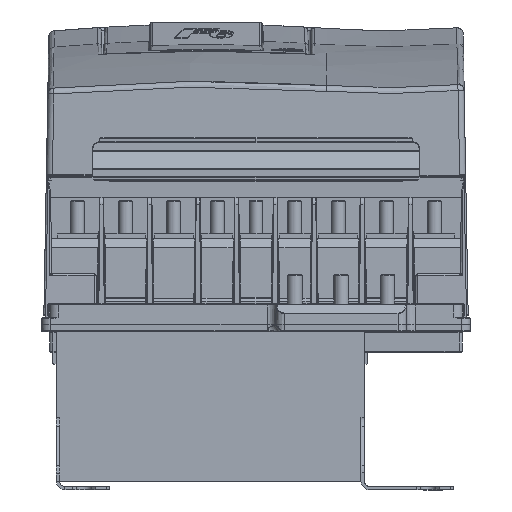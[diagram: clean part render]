
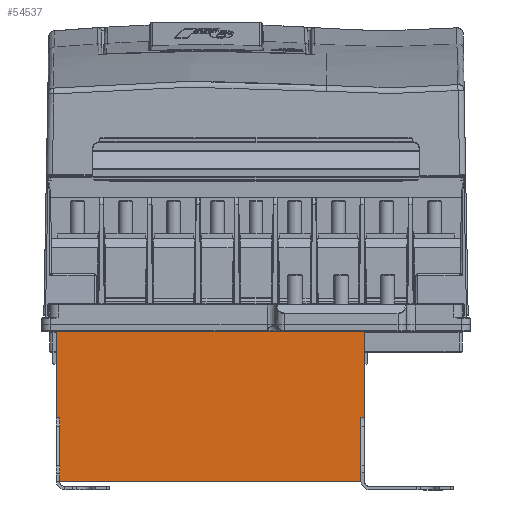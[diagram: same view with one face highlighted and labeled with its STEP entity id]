
A CAD part, front view. The second image highlights one B-rep face of the part: STEP entity #54537.
In plain terms, the highlighted planar face has unit normal (0, -1, 0).
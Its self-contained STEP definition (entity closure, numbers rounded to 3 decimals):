
#781 = CARTESIAN_POINT ( 'NONE',  ( -89.5, -63., -59. ) ) ;
#3533 = VECTOR ( 'NONE', #17405, 1000. ) ;
#7648 = EDGE_CURVE ( 'NONE', #99684, #60654, #64321, .T. ) ;
#9254 = LINE ( 'NONE', #31260, #3533 ) ;
#12946 = ORIENTED_EDGE ( 'NONE', *, *, #67321, .T. ) ;
#13111 = LINE ( 'NONE', #22317, #57198 ) ;
#13151 = CARTESIAN_POINT ( 'NONE',  ( 89.5, -63., -22. ) ) ;
#13545 = EDGE_CURVE ( 'NONE', #54027, #70020, #27477, .T. ) ;
#15111 = EDGE_LOOP ( 'NONE', ( #32792, #23341, #91481, #73072, #24395, #12946, #55637, #17736 ) ) ;
#17405 = DIRECTION ( 'NONE',  ( 0., 0., 1. ) ) ;
#17736 = ORIENTED_EDGE ( 'NONE', *, *, #93136, .T. ) ;
#18260 = VECTOR ( 'NONE', #46921, 1000. ) ;
#18732 = CARTESIAN_POINT ( 'NONE',  ( 87.5, -63., -59. ) ) ;
#19912 = DIRECTION ( 'NONE',  ( 0., 1., 0. ) ) ;
#20705 = EDGE_CURVE ( 'NONE', #79584, #50398, #31528, .T. ) ;
#22049 = LINE ( 'NONE', #35502, #81409 ) ;
#22317 = CARTESIAN_POINT ( 'NONE',  ( -87.5, -63., -36. ) ) ;
#22584 = CARTESIAN_POINT ( 'NONE',  ( 87.5, -63., -22. ) ) ;
#22721 = VECTOR ( 'NONE', #61578, 1000. ) ;
#23341 = ORIENTED_EDGE ( 'NONE', *, *, #66539, .T. ) ;
#23641 = LINE ( 'NONE', #46208, #22721 ) ;
#24395 = ORIENTED_EDGE ( 'NONE', *, *, #13545, .T. ) ;
#27477 = LINE ( 'NONE', #82286, #95902 ) ;
#30010 = VERTEX_POINT ( 'NONE', #22584 ) ;
#31260 = CARTESIAN_POINT ( 'NONE',  ( 89.5, -63., -59. ) ) ;
#31528 = LINE ( 'NONE', #781, #18260 ) ;
#32792 = ORIENTED_EDGE ( 'NONE', *, *, #20705, .T. ) ;
#35502 = CARTESIAN_POINT ( 'NONE',  ( -89.5, -63., -59. ) ) ;
#43369 = VECTOR ( 'NONE', #48951, 1000. ) ;
#43478 = CARTESIAN_POINT ( 'NONE',  ( 0., -63., 0. ) ) ;
#43951 = CARTESIAN_POINT ( 'NONE',  ( 87.5, -63., 0. ) ) ;
#44243 = VERTEX_POINT ( 'NONE', #13151 ) ;
#46208 = CARTESIAN_POINT ( 'NONE',  ( 0., -63., -22. ) ) ;
#46921 = DIRECTION ( 'NONE',  ( 1., 0., 0. ) ) ;
#48488 = CARTESIAN_POINT ( 'NONE',  ( -89.5, -63., -22. ) ) ;
#48951 = DIRECTION ( 'NONE',  ( 1., 0., 0. ) ) ;
#49910 = CARTESIAN_POINT ( 'NONE',  ( 89.5, -63., 28. ) ) ;
#50398 = VERTEX_POINT ( 'NONE', #18732 ) ;
#50781 = EDGE_CURVE ( 'NONE', #44243, #30010, #23641, .T. ) ;
#51171 = DIRECTION ( 'NONE',  ( 0., 0., 1. ) ) ;
#54027 = VERTEX_POINT ( 'NONE', #49910 ) ;
#54150 = CARTESIAN_POINT ( 'NONE',  ( -87.5, -63., -59. ) ) ;
#54537 = ADVANCED_FACE ( 'NONE', ( #67049 ), #90125, .F. ) ;
#55637 = ORIENTED_EDGE ( 'NONE', *, *, #7648, .T. ) ;
#56637 = CARTESIAN_POINT ( 'NONE',  ( -89.5, -63., -22. ) ) ;
#57198 = VECTOR ( 'NONE', #92518, 1000. ) ;
#60654 = VERTEX_POINT ( 'NONE', #70665 ) ;
#61578 = DIRECTION ( 'NONE',  ( -1., 0., 0. ) ) ;
#64321 = LINE ( 'NONE', #56637, #43369 ) ;
#66539 = EDGE_CURVE ( 'NONE', #50398, #30010, #92111, .T. ) ;
#67049 = FACE_OUTER_BOUND ( 'NONE', #15111, .T. ) ;
#67321 = EDGE_CURVE ( 'NONE', #70020, #99684, #22049, .T. ) ;
#67509 = DIRECTION ( 'NONE',  ( 0., 0., 1. ) ) ;
#67654 = AXIS2_PLACEMENT_3D ( 'NONE', #43478, #19912, #51171 ) ;
#70020 = VERTEX_POINT ( 'NONE', #90804 ) ;
#70665 = CARTESIAN_POINT ( 'NONE',  ( -87.5, -63., -22. ) ) ;
#73072 = ORIENTED_EDGE ( 'NONE', *, *, #84555, .T. ) ;
#79584 = VERTEX_POINT ( 'NONE', #54150 ) ;
#81409 = VECTOR ( 'NONE', #82153, 1000. ) ;
#82153 = DIRECTION ( 'NONE',  ( 0., 0., -1. ) ) ;
#82286 = CARTESIAN_POINT ( 'NONE',  ( -89.5, -63., 28. ) ) ;
#84555 = EDGE_CURVE ( 'NONE', #44243, #54027, #9254, .T. ) ;
#89488 = DIRECTION ( 'NONE',  ( -1., 0., 0. ) ) ;
#90125 = PLANE ( 'NONE',  #67654 ) ;
#90804 = CARTESIAN_POINT ( 'NONE',  ( -89.5, -63., 28. ) ) ;
#91152 = VECTOR ( 'NONE', #67509, 1000. ) ;
#91481 = ORIENTED_EDGE ( 'NONE', *, *, #50781, .F. ) ;
#92111 = LINE ( 'NONE', #43951, #91152 ) ;
#92518 = DIRECTION ( 'NONE',  ( 0., 0., -1. ) ) ;
#93136 = EDGE_CURVE ( 'NONE', #60654, #79584, #13111, .T. ) ;
#95902 = VECTOR ( 'NONE', #89488, 1000. ) ;
#99684 = VERTEX_POINT ( 'NONE', #48488 ) ;
